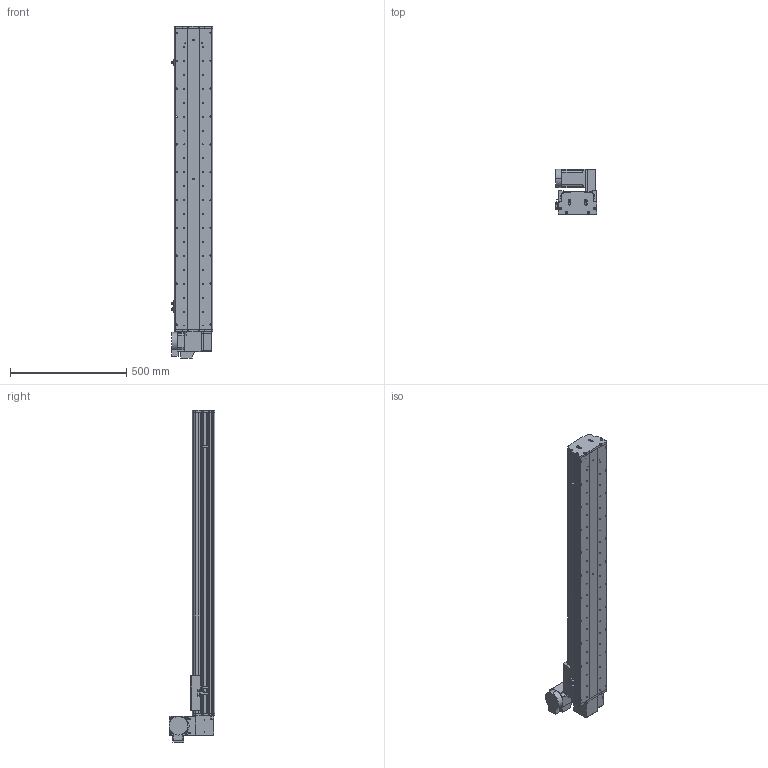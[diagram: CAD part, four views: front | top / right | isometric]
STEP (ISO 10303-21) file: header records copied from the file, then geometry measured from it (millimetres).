
FILE_DESCRIPTION (( 'STEP AP214' ), '1' );
FILE_NAME ('KSD165B-S1050-MRU-CM.STEP', '2017-10-17T02:40:04', ( '微软用户' ), ( '微软中国' ), 'SwSTEP 2.0', 'SolidWorks 2014', '' );
FILE_SCHEMA (( 'AUTOMOTIVE_DESIGN' ));
Length unit declared in the file: millimetre
Products named in the file (17): 165宽马达安装板同步带右; U倰嫖萇假蚾璃; U倰嫖萇EEㄜSX672; 覜茼え68遵圉猾敕; KSD165模组-同步带-防撞垫2; KSD165模组同步带-防撞垫1; KSD165耀郪-ヶ傷啣1-肮祭湍; KSD165模组-后端板1-同步带; KSD165模组-同步带滑动座-最新版; KSD165B-S1050-MRU-CM; 130宽模组马达安装板连板上下折丝杆同步带; 130宽模组保护罩上下左右折-同步带; HTPA26S5M250-A-H8 750W萇儂蚚; HTPA26S5M250-A-H8 400W萇儂蚚 ; KSD165模组-同步带防尘盖1-1050行程; KSD165模组同步带底板-1050行程; 拸秶雄ん750W侜督萇儂
Assembly tree (20 placements, depth 2):
  KSD165B-S1050-MRU-CM
    KSD165模组-同步带滑动座-最新版
    KSD165模组-后端板1-同步带
    KSD165耀郪-ヶ傷啣1-肮祭湍
    KSD165模组同步带-防撞垫1
    KSD165模组-同步带-防撞垫2
    覜茼え68遵圉猾敕
    U倰嫖萇EEㄜSX672  x3
    U倰嫖萇假蚾璃  x3
    165宽马达安装板同步带右
    拸秶雄ん750W侜督萇儂
    KSD165模组同步带底板-1050行程
    KSD165模组-同步带防尘盖1-1050行程
    HTPA26S5M250-A-H8 400W萇儂蚚 
    HTPA26S5M250-A-H8 750W萇儂蚚
    130宽模组保护罩上下左右折-同步带
    130宽模组马达安装板连板上下折丝杆同步带
Bounding box: 178.7 x 198 x 1430.5 mm (x, y, z)
Volume: 8144334.7 mm3; surface area: 1892940.6 mm2
Topology: 21 solids, 21 shells, 1979 faces, 5592 edges, 3652 vertices
Faces by surface type: cylinder 1279, plane 588, cone 112
Entity records: 64484 total; most frequent: CARTESIAN_POINT 13204, DIRECTION 10580, ORIENTED_EDGE 9844, EDGE_CURVE 4922, AXIS2_PLACEMENT_3D 4154, VERTEX_POINT 3244, CIRCLE 2372, LINE 2272
